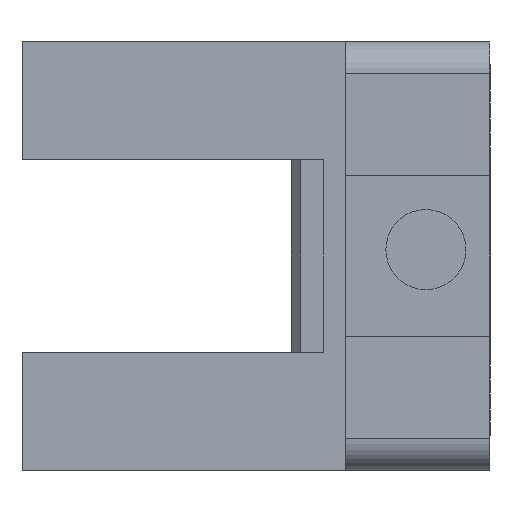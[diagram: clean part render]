
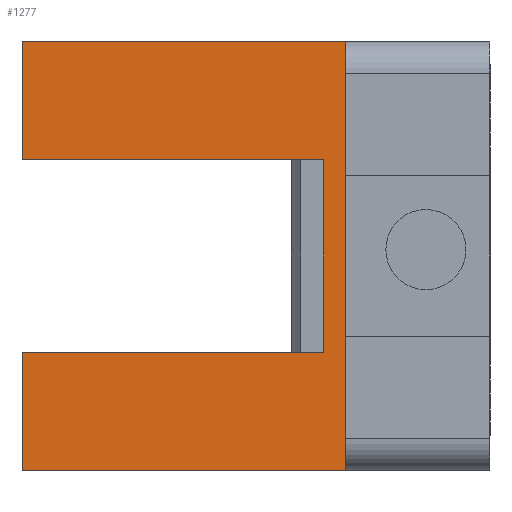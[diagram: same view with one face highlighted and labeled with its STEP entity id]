
A CAD part, left-side view. The second image highlights one B-rep face of the part: STEP entity #1277.
In plain terms, the highlighted planar face has unit normal (-1, 0, 0).
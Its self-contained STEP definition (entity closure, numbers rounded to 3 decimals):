
#2 = CARTESIAN_POINT ( 'NONE',  ( -3., -7.4, 0. ) ) ;
#85 = CARTESIAN_POINT ( 'NONE',  ( -3., -1.1, 0. ) ) ;
#93 = DIRECTION ( 'NONE',  ( 0., 0., 1. ) ) ;
#158 = CARTESIAN_POINT ( 'NONE',  ( -3., 2., -3.7 ) ) ;
#188 = VECTOR ( 'NONE', #853, 1000. ) ;
#191 = ORIENTED_EDGE ( 'NONE', *, *, #1401, .F. ) ;
#196 = VECTOR ( 'NONE', #344, 1000. ) ;
#206 = ORIENTED_EDGE ( 'NONE', *, *, #1689, .F. ) ;
#247 = CARTESIAN_POINT ( 'NONE',  ( -3., -7.4, 6. ) ) ;
#252 = CARTESIAN_POINT ( 'NONE',  ( -3., 2., 6. ) ) ;
#288 = EDGE_CURVE ( 'NONE', #1521, #1687, #1364, .T. ) ;
#344 = DIRECTION ( 'NONE',  ( 0., 0., 1. ) ) ;
#361 = LINE ( 'NONE', #2, #1513 ) ;
#378 = CARTESIAN_POINT ( 'NONE',  ( -3., -8.1, -3.7 ) ) ;
#406 = ORIENTED_EDGE ( 'NONE', *, *, #877, .F. ) ;
#412 = DIRECTION ( 'NONE',  ( 0., 1., 0. ) ) ;
#456 = DIRECTION ( 'NONE',  ( 0., -1., 0. ) ) ;
#461 = VECTOR ( 'NONE', #456, 1000. ) ;
#463 = DIRECTION ( 'NONE',  ( -1., 0., 0. ) ) ;
#538 = VERTEX_POINT ( 'NONE', #378 ) ;
#588 = LINE ( 'NONE', #991, #188 ) ;
#599 = EDGE_CURVE ( 'NONE', #1487, #903, #1081, .T. ) ;
#603 = VECTOR ( 'NONE', #1388, 1000. ) ;
#647 = EDGE_CURVE ( 'NONE', #538, #1357, #588, .T. ) ;
#655 = VERTEX_POINT ( 'NONE', #247 ) ;
#670 = ORIENTED_EDGE ( 'NONE', *, *, #930, .F. ) ;
#679 = VECTOR ( 'NONE', #412, 1000. ) ;
#724 = LINE ( 'NONE', #85, #1269 ) ;
#853 = DIRECTION ( 'NONE',  ( 0., 0., 1. ) ) ;
#877 = EDGE_CURVE ( 'NONE', #903, #1357, #901, .T. ) ;
#901 = LINE ( 'NONE', #1960, #461 ) ;
#903 = VERTEX_POINT ( 'NONE', #1822 ) ;
#914 = ORIENTED_EDGE ( 'NONE', *, *, #599, .F. ) ;
#930 = EDGE_CURVE ( 'NONE', #1511, #655, #361, .T. ) ;
#984 = ORIENTED_EDGE ( 'NONE', *, *, #647, .T. ) ;
#987 = CARTESIAN_POINT ( 'NONE',  ( -3., 2., 9.7 ) ) ;
#991 = CARTESIAN_POINT ( 'NONE',  ( -3., -8.1, 9.7 ) ) ;
#1020 = ORIENTED_EDGE ( 'NONE', *, *, #1584, .F. ) ;
#1031 = CARTESIAN_POINT ( 'NONE',  ( -3., 2., 0. ) ) ;
#1081 = LINE ( 'NONE', #987, #1884 ) ;
#1136 = DIRECTION ( 'NONE',  ( 0., -1., 0. ) ) ;
#1246 = FACE_OUTER_BOUND ( 'NONE', #1248, .T. ) ;
#1248 = EDGE_LOOP ( 'NONE', ( #191, #984, #406, #914, #206, #670, #1020, #1282 ) ) ;
#1269 = VECTOR ( 'NONE', #1136, 1000. ) ;
#1277 = ADVANCED_FACE ( 'NONE', ( #1246 ), #1360, .T. ) ;
#1282 = ORIENTED_EDGE ( 'NONE', *, *, #288, .F. ) ;
#1310 = CARTESIAN_POINT ( 'NONE',  ( -3., 2., 0. ) ) ;
#1357 = VERTEX_POINT ( 'NONE', #1381 ) ;
#1360 = PLANE ( 'NONE',  #1696 ) ;
#1364 = LINE ( 'NONE', #1031, #196 ) ;
#1381 = CARTESIAN_POINT ( 'NONE',  ( -3., -8.1, 9.7 ) ) ;
#1388 = DIRECTION ( 'NONE',  ( 0., 1., 0. ) ) ;
#1401 = EDGE_CURVE ( 'NONE', #538, #1521, #1762, .T. ) ;
#1478 = LINE ( 'NONE', #252, #679 ) ;
#1487 = VERTEX_POINT ( 'NONE', #1712 ) ;
#1511 = VERTEX_POINT ( 'NONE', #1871 ) ;
#1512 = DIRECTION ( 'NONE',  ( 0., 0., 1. ) ) ;
#1513 = VECTOR ( 'NONE', #1829, 1000. ) ;
#1521 = VERTEX_POINT ( 'NONE', #1565 ) ;
#1565 = CARTESIAN_POINT ( 'NONE',  ( -3., 2., -3.7 ) ) ;
#1584 = EDGE_CURVE ( 'NONE', #1687, #1511, #724, .T. ) ;
#1687 = VERTEX_POINT ( 'NONE', #1310 ) ;
#1689 = EDGE_CURVE ( 'NONE', #655, #1487, #1478, .T. ) ;
#1696 = AXIS2_PLACEMENT_3D ( 'NONE', #158, #463, #1512 ) ;
#1712 = CARTESIAN_POINT ( 'NONE',  ( -3., 2., 6. ) ) ;
#1762 = LINE ( 'NONE', #1848, #603 ) ;
#1822 = CARTESIAN_POINT ( 'NONE',  ( -3., 2., 9.7 ) ) ;
#1829 = DIRECTION ( 'NONE',  ( 0., 0., 1. ) ) ;
#1848 = CARTESIAN_POINT ( 'NONE',  ( -3., 2., -3.7 ) ) ;
#1871 = CARTESIAN_POINT ( 'NONE',  ( -3., -7.4, 0. ) ) ;
#1884 = VECTOR ( 'NONE', #93, 1000. ) ;
#1960 = CARTESIAN_POINT ( 'NONE',  ( -3., -12.6, 9.7 ) ) ;
